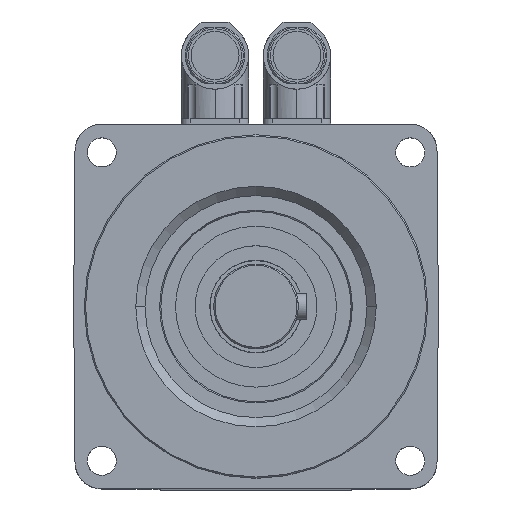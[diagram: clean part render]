
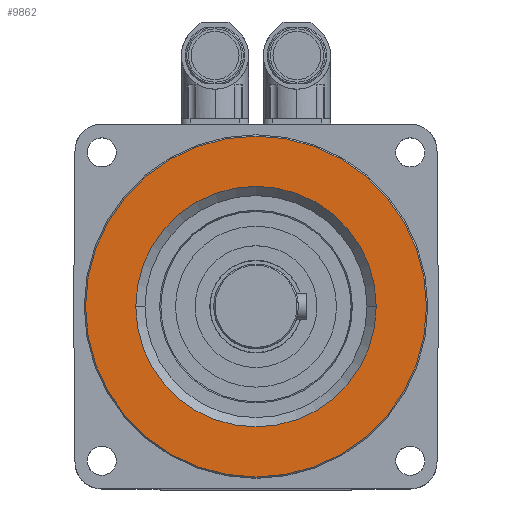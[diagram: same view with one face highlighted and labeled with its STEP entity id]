
A CAD part, top view. The second image highlights one B-rep face of the part: STEP entity #9862.
In plain terms, the highlighted planar face has unit normal (0, 0, 1).
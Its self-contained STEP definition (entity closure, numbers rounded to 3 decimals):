
#4555 = CARTESIAN_POINT ( 'NONE',  ( -64.5, 0., 2.46 ) ) ;
#4556 = CARTESIAN_POINT ( 'NONE',  ( 64.5, 0., 2.46 ) ) ;
#4557 = DIRECTION ( 'NONE',  ( 1., 0., 0. ) ) ;
#4558 = DIRECTION ( 'NONE',  ( 0., 0., 1. ) ) ;
#4559 = CARTESIAN_POINT ( 'NONE',  ( 0., 0., 2.46 ) ) ;
#4560 = AXIS2_PLACEMENT_3D ( 'NONE', #4559, #4558, #4557 ) ;
#4561 = CIRCLE ( 'NONE', #4560, 64.5 ) ;
#5450 = DIRECTION ( 'NONE',  ( -1., 0., 0. ) ) ;
#5451 = DIRECTION ( 'NONE',  ( 0., 0., -1. ) ) ;
#5452 = CARTESIAN_POINT ( 'NONE',  ( 0., 0., 2.46 ) ) ;
#5453 = AXIS2_PLACEMENT_3D ( 'NONE', #5452, #5451, #5450 ) ;
#5454 = CIRCLE ( 'NONE', #5453, 45.5 ) ;
#5474 = FACE_BOUND ( 'NONE', #9845, .T. ) ;
#5476 = FACE_OUTER_BOUND ( 'NONE', #9840, .T. ) ;
#5501 = DIRECTION ( 'NONE',  ( 1., 0., 0. ) ) ;
#5502 = DIRECTION ( 'NONE',  ( 0., 0., 1. ) ) ;
#5503 = CARTESIAN_POINT ( 'NONE',  ( 0., 0., 2.46 ) ) ;
#5504 = AXIS2_PLACEMENT_3D ( 'NONE', #5503, #5502, #5501 ) ;
#5506 = DIRECTION ( 'NONE',  ( 1., 0., 0. ) ) ;
#5507 = DIRECTION ( 'NONE',  ( 0., 0., 1. ) ) ;
#5508 = CARTESIAN_POINT ( 'NONE',  ( 0., 64.5, 2.46 ) ) ;
#5509 = AXIS2_PLACEMENT_3D ( 'NONE', #5508, #5507, #5506 ) ;
#5510 = CIRCLE ( 'NONE', #5504, 64.5 ) ;
#5511 = PLANE ( 'NONE',  #5509 ) ;
#8604 = EDGE_CURVE ( 'NONE', #8621, #8606, #19603, .T. ) ;
#8606 = VERTEX_POINT ( 'NONE', #19653 ) ;
#8621 = VERTEX_POINT ( 'NONE', #19664 ) ;
#9505 = EDGE_CURVE ( 'NONE', #9506, #9507, #4561, .T. ) ;
#9506 = VERTEX_POINT ( 'NONE', #4556 ) ;
#9507 = VERTEX_POINT ( 'NONE', #4555 ) ;
#9833 = EDGE_CURVE ( 'NONE', #8606, #8621, #5454, .T. ) ;
#9840 = EDGE_LOOP ( 'NONE', ( #9853, #9851 ) ) ;
#9845 = EDGE_LOOP ( 'NONE', ( #9855, #9857 ) ) ;
#9851 = ORIENTED_EDGE ( 'NONE', *, *, #9505, .T. ) ;
#9853 = ORIENTED_EDGE ( 'NONE', *, *, #9863, .T. ) ;
#9855 = ORIENTED_EDGE ( 'NONE', *, *, #8604, .T. ) ;
#9857 = ORIENTED_EDGE ( 'NONE', *, *, #9833, .T. ) ;
#9862 = ADVANCED_FACE ( 'NONE', ( #5476, #5474 ), #5511, .T. ) ;
#9863 = EDGE_CURVE ( 'NONE', #9507, #9506, #5510, .T. ) ;
#19600 = DIRECTION ( 'NONE',  ( 0., 0., -1. ) ) ;
#19601 = CARTESIAN_POINT ( 'NONE',  ( 0., 0., 2.46 ) ) ;
#19602 = AXIS2_PLACEMENT_3D ( 'NONE', #19601, #19600, #19654 ) ;
#19603 = CIRCLE ( 'NONE', #19602, 45.5 ) ;
#19653 = CARTESIAN_POINT ( 'NONE',  ( -45.5, 0., 2.46 ) ) ;
#19654 = DIRECTION ( 'NONE',  ( -1., 0., 0. ) ) ;
#19664 = CARTESIAN_POINT ( 'NONE',  ( 45.5, 0., 2.46 ) ) ;
